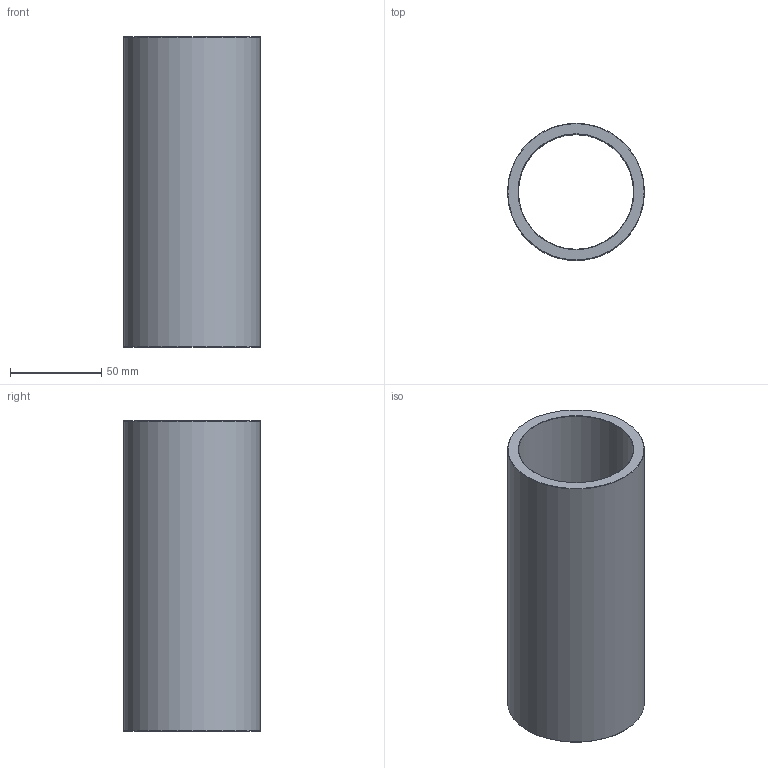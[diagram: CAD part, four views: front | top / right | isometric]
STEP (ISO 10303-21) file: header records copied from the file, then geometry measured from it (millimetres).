
FILE_DESCRIPTION(('STEP AP203'),'1');
FILE_NAME('C:/Users/Rodrigo/Desktop/GA6.063.170-1.step','2016-11-08T14:40:14',(' '),(' '),'Spatial InterOp 3D',' ',' ');
FILE_SCHEMA(('CONFIG_CONTROL_DESIGN'));
Length unit declared in the file: millimetre
Products named in the file (1): 1
Bounding box: 75 x 75 x 170 mm (x, y, z)
Volume: 221087.9 mm3; surface area: 76201.4 mm2
Topology: 1 solids, 1 shells, 8 faces, 14 edges, 8 vertices
Faces by surface type: cone 4, cylinder 2, plane 2
Full cylindrical faces by diameter (mm): 63 x1, 75 x1
Entity records: 212 total; most frequent: DIRECTION 34, CARTESIAN_POINT 25, AXIS2_PLACEMENT_3D 17, EDGE_LOOP 16, ORIENTED_EDGE 16, FACE_OUTER_BOUND 10, ADVANCED_FACE 8, EDGE_CURVE 8
